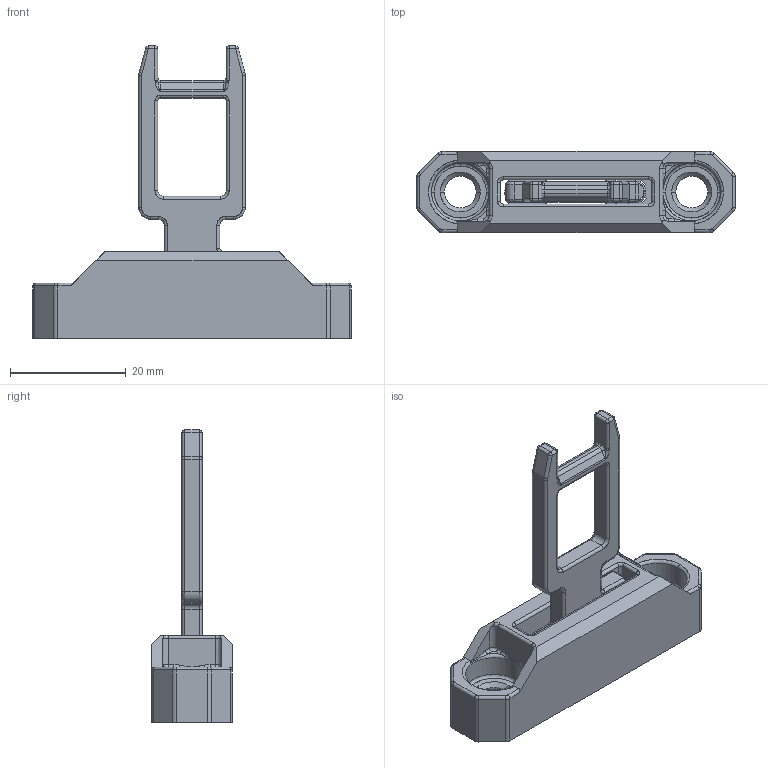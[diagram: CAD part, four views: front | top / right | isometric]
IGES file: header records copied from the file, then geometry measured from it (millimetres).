
Start section: SolidWorks IGES file using analytic representation for surfaces
Global section: file name: Q:\GROUPS\WAU_SBC_ITEC\ENGENHARIA\FERRAMENTARIA\EM ANDAMENTO - DESENHOS CHAVES - LEANDRO\ACIS-PFL\ACIS-PFL.IGS; native system: SolidWorks 2015; preprocessor: SolidWorks 2015; author: silval; date: 151027.171913; units: millimetre
Bounding box: 55 x 14 x 50.5 mm (x, y, z)
Surface area: 6320.4 mm2 (no closed solid volume)
Topology: 0 solids, 0 shells, 328 faces, 2737 edges, 2721 vertices
Faces by surface type: bspline 175, revolution 153
